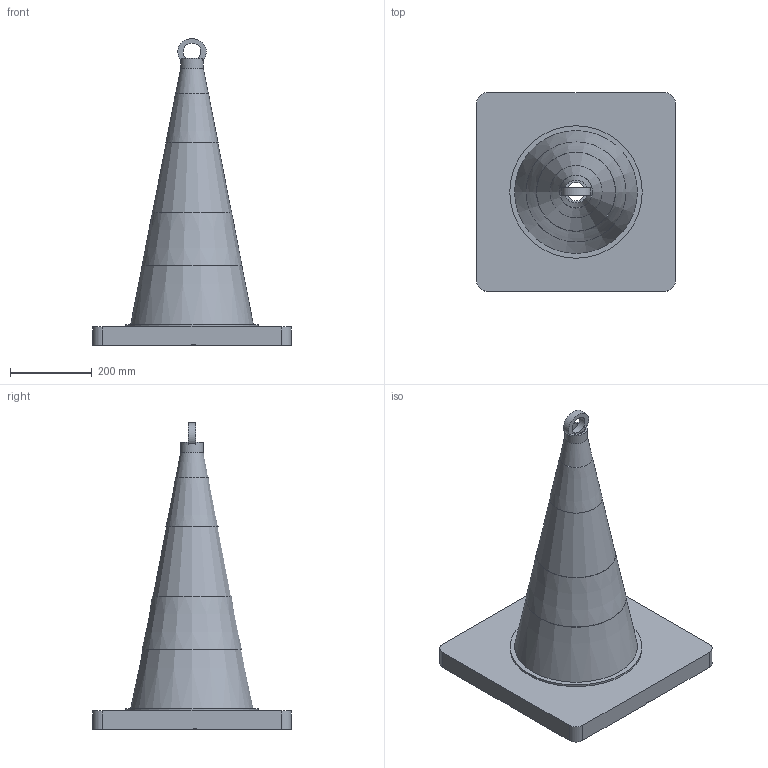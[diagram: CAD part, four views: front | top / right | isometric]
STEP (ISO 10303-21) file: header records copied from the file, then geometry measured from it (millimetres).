
FILE_DESCRIPTION(('FreeCAD Model'),'2;1');
FILE_NAME('Open CASCADE Shape Model','2026-10-04T06:14:37',('FreeCAD'),( 'FreeCAD'),'Open CASCADE STEP processor 7.8','FreeCAD','Unknown');
FILE_SCHEMA(('AUTOMOTIVE_DESIGN { 1 0 10303 214 1 1 1 1 }'));
Length unit declared in the file: millimetre
Products named in the file (1): Open CASCADE STEP translator 7.8 1
Bounding box: 485 x 485 x 749.98 mm (x, y, z)
Volume: 9115177 mm3; surface area: 1466130.4 mm2
Topology: 4 solids, 4 shells, 55 faces, 141 edges, 94 vertices
Faces by surface type: plane 35, cylinder 8, cone 7, extrusion 5
Full cylindrical faces by diameter (mm): 45.8 x1, 56 x1, 292 x1, 324 x1
Entity records: 1810 total; most frequent: CARTESIAN_POINT 389, DIRECTION 300, ORIENTED_EDGE 282, EDGE_CURVE 141, AXIS2_PLACEMENT_3D 106, VERTEX_POINT 94, VECTOR 88, LINE 83
